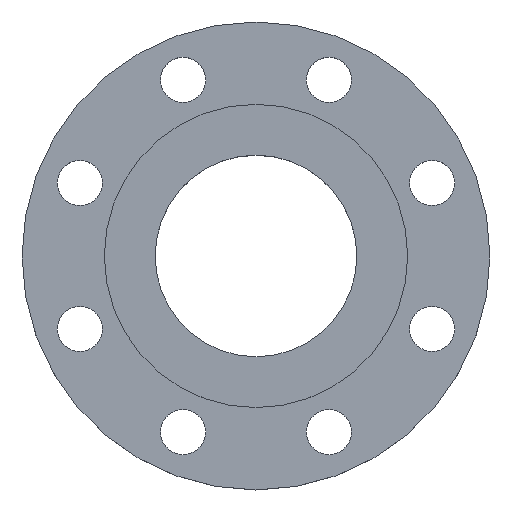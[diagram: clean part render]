
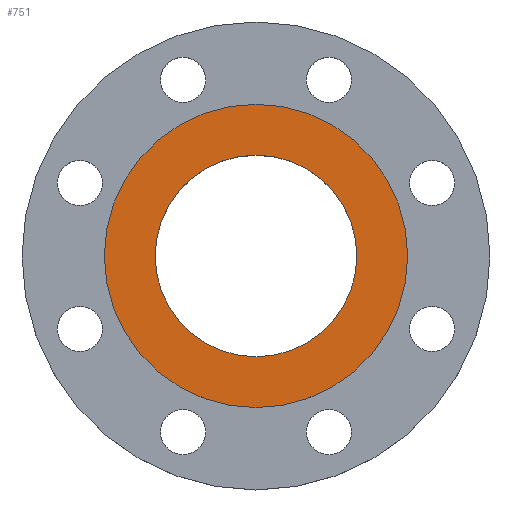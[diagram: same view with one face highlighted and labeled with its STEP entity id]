
A CAD part, top view. The second image highlights one B-rep face of the part: STEP entity #751.
In plain terms, the highlighted planar face has unit normal (0, 0, 1).
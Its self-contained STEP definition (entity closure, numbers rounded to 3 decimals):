
#48 = EDGE_CURVE ( 'NONE', #801, #767, #634, .T. ) ;
#69 = DIRECTION ( 'NONE',  ( -1., 0., 0. ) ) ;
#70 = DIRECTION ( 'NONE',  ( 0., 0., -1. ) ) ;
#71 = CARTESIAN_POINT ( 'NONE',  ( 0., 0., 0. ) ) ;
#93 = CARTESIAN_POINT ( 'NONE',  ( 87.5, 0., 0. ) ) ;
#152 = CIRCLE ( 'NONE', #229, 58.17 ) ;
#161 = DIRECTION ( 'NONE',  ( 1., 0., 0. ) ) ;
#162 = DIRECTION ( 'NONE',  ( 0., 0., 1. ) ) ;
#163 = CARTESIAN_POINT ( 'NONE',  ( 0., 0., 0. ) ) ;
#172 = AXIS2_PLACEMENT_3D ( 'NONE', #71, #70, #69 ) ;
#194 = CARTESIAN_POINT ( 'NONE',  ( -58.17, 0., 0. ) ) ;
#229 = AXIS2_PLACEMENT_3D ( 'NONE', #163, #162, #161 ) ;
#234 = CARTESIAN_POINT ( 'NONE',  ( 58.17, 0., 0. ) ) ;
#240 = CARTESIAN_POINT ( 'NONE',  ( -87.5, 0., 0. ) ) ;
#255 = DIRECTION ( 'NONE',  ( 1., 0., 0. ) ) ;
#256 = DIRECTION ( 'NONE',  ( 0., 0., 1. ) ) ;
#258 = CARTESIAN_POINT ( 'NONE',  ( 0., 0., 0. ) ) ;
#259 = PLANE ( 'NONE',  #968 ) ;
#260 = FACE_OUTER_BOUND ( 'NONE', #484, .T. ) ;
#261 = FACE_BOUND ( 'NONE', #519, .T. ) ;
#369 = DIRECTION ( 'NONE',  ( -1., 0., 0. ) ) ;
#370 = DIRECTION ( 'NONE',  ( 0., 0., -1. ) ) ;
#372 = CARTESIAN_POINT ( 'NONE',  ( 0., 0., 0. ) ) ;
#484 = EDGE_LOOP ( 'NONE', ( #938, #940 ) ) ;
#519 = EDGE_LOOP ( 'NONE', ( #972, #935 ) ) ;
#575 = CARTESIAN_POINT ( 'NONE',  ( 0., 0., 0. ) ) ;
#576 = DIRECTION ( 'NONE',  ( 0., 0., 1. ) ) ;
#577 = DIRECTION ( 'NONE',  ( 1., 0., 0. ) ) ;
#634 = CIRCLE ( 'NONE', #854, 58.17 ) ;
#647 = CIRCLE ( 'NONE', #172, 87.5 ) ;
#661 = EDGE_CURVE ( 'NONE', #943, #760, #782, .T. ) ;
#751 = ADVANCED_FACE ( 'NONE', ( #261, #260 ), #259, .T. ) ;
#760 = VERTEX_POINT ( 'NONE', #240 ) ;
#767 = VERTEX_POINT ( 'NONE', #234 ) ;
#782 = CIRCLE ( 'NONE', #802, 87.5 ) ;
#801 = VERTEX_POINT ( 'NONE', #194 ) ;
#802 = AXIS2_PLACEMENT_3D ( 'NONE', #372, #370, #369 ) ;
#824 = EDGE_CURVE ( 'NONE', #767, #801, #152, .T. ) ;
#854 = AXIS2_PLACEMENT_3D ( 'NONE', #575, #576, #577 ) ;
#935 = ORIENTED_EDGE ( 'NONE', *, *, #48, .F. ) ;
#938 = ORIENTED_EDGE ( 'NONE', *, *, #997, .F. ) ;
#940 = ORIENTED_EDGE ( 'NONE', *, *, #661, .F. ) ;
#943 = VERTEX_POINT ( 'NONE', #93 ) ;
#968 = AXIS2_PLACEMENT_3D ( 'NONE', #258, #256, #255 ) ;
#972 = ORIENTED_EDGE ( 'NONE', *, *, #824, .F. ) ;
#997 = EDGE_CURVE ( 'NONE', #760, #943, #647, .T. ) ;
